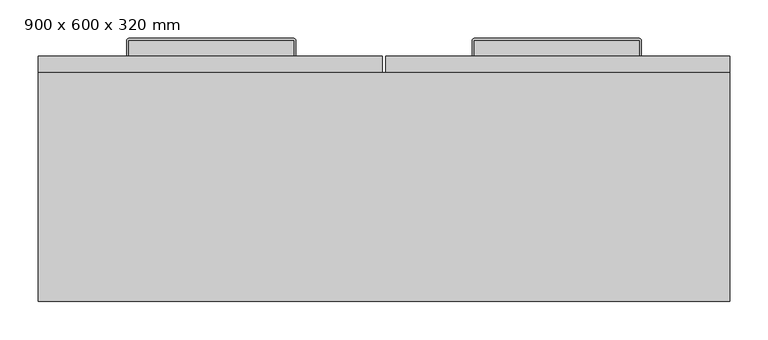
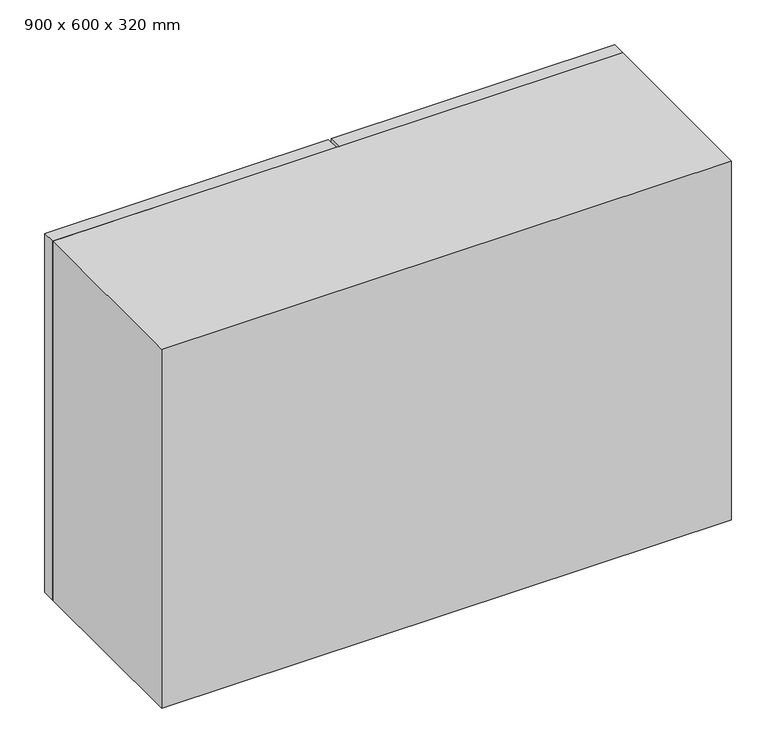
"""IFC4 building model written with IfcOpenShell, lengths in millimetres: furniture geometry, Armario superior - Puerta doble : 900 x 600 x 320 mm."""

from ifc_helpers import new_model, si_unit, point, frame, frame_2d, origin, place, context, project, spatial, polyline, circle_curve, trimmed, segment, composite_curve, outline, extrude, faceted_brep, source, transform, mapped, element, save


def furniture_900_x_600_x_320_mm_dd102760(model_context):
    return source(origin(), model_context, "Body", "SolidModel", [
        extrude(outline(composite_curve([segment(polyline([(-158.0, 410.0), (-158.0, 430.5)]), True, "CONTINUOUS"), segment(trimmed(circle_curve(frame_2d((-157.5, 430.5)), 0.5), [point((-158.0, 430.5))], [point((-157.5, 431.0))], False, "CARTESIAN"), True, "CONTINUOUS"), segment(polyline([(-157.5, 431.0), (57.5, 431.0)]), True, "CONTINUOUS"), segment(trimmed(circle_curve(frame_2d((57.5, 430.5)), 0.5), [point((57.5, 431.0))], [point((58.0, 430.5))], False, "CARTESIAN"), True, "CONTINUOUS"), segment(polyline([(58.0, 430.5), (58.0, 410.0), (-158.0, 410.0)]), True, "CONTINUOUS")], self_intersect=False)), frame((0.0, 0.0, 1449.765389), z_axis=(0.0, 0.0, 1.0), x_axis=(1.0, 0.0, 0.0)), (0.0, 0.0, 1.0), 6.4890959),
        extrude(outline(composite_curve([segment(polyline([(-160.0, 410.0), (-160.0, 430.5)]), True, "CONTINUOUS"), segment(trimmed(circle_curve(frame_2d((-157.5, 430.5)), 2.5), [point((-160.0, 430.5))], [point((-157.5, 433.0))], False, "CARTESIAN"), True, "CONTINUOUS"), segment(polyline([(-157.5, 433.0), (57.5, 433.0)]), True, "CONTINUOUS"), segment(trimmed(circle_curve(frame_2d((57.5, 430.5)), 2.5), [point((57.5, 433.0))], [point((60.0, 430.5))], False, "CARTESIAN"), True, "CONTINUOUS"), segment(polyline([(60.0, 430.5), (60.0, 410.0), (58.0, 410.0), (58.0, 430.5)]), True, "CONTINUOUS"), segment(trimmed(circle_curve(frame_2d((57.5, 430.5)), 0.5), [point((58.0, 430.5))], [point((57.5, 431.0))], True, "CARTESIAN"), True, "CONTINUOUS"), segment(polyline([(57.5, 431.0), (-157.5, 431.0)]), True, "CONTINUOUS"), segment(trimmed(circle_curve(frame_2d((-157.5, 430.5)), 0.5), [point((-157.5, 431.0))], [point((-158.0, 430.5))], True, "CARTESIAN"), True, "CONTINUOUS"), segment(polyline([(-158.0, 430.5), (-158.0, 410.0), (-160.0, 410.0)]), True, "CONTINUOUS")], self_intersect=False)), frame((0.0, 0.0, 1447.0), z_axis=(0.0, 0.0, 1.0), x_axis=(1.0, 0.0, 0.0)), (0.0, 0.0, 1.0), 12.0),
        extrude(outline(composite_curve([segment(polyline([(292.0, 410.0), (292.0, 430.5)]), True, "CONTINUOUS"), segment(trimmed(circle_curve(frame_2d((292.5, 430.5)), 0.5), [point((292.0, 430.5))], [point((292.5, 431.0))], False, "CARTESIAN"), True, "CONTINUOUS"), segment(polyline([(292.5, 431.0), (507.5, 431.0)]), True, "CONTINUOUS"), segment(trimmed(circle_curve(frame_2d((507.5, 430.5)), 0.5), [point((507.5, 431.0))], [point((508.0, 430.5))], False, "CARTESIAN"), True, "CONTINUOUS"), segment(polyline([(508.0, 430.5), (508.0, 410.0), (292.0, 410.0)]), True, "CONTINUOUS")], self_intersect=False)), frame((0.0, 0.0, 1449.765389), z_axis=(0.0, 0.0, 1.0), x_axis=(1.0, 0.0, 0.0)), (0.0, 0.0, 1.0), 6.4890959),
        extrude(outline(composite_curve([segment(polyline([(290.0, 410.0), (290.0, 430.5)]), True, "CONTINUOUS"), segment(trimmed(circle_curve(frame_2d((292.5, 430.5)), 2.5), [point((290.0, 430.5))], [point((292.5, 433.0))], False, "CARTESIAN"), True, "CONTINUOUS"), segment(polyline([(292.5, 433.0), (507.5, 433.0)]), True, "CONTINUOUS"), segment(trimmed(circle_curve(frame_2d((507.5, 430.5)), 2.5), [point((507.5, 433.0))], [point((510.0, 430.5))], False, "CARTESIAN"), True, "CONTINUOUS"), segment(polyline([(510.0, 430.5), (510.0, 410.0), (508.0, 410.0), (508.0, 430.5)]), True, "CONTINUOUS"), segment(trimmed(circle_curve(frame_2d((507.5, 430.5)), 0.5), [point((508.0, 430.5))], [point((507.5, 431.0))], True, "CARTESIAN"), True, "CONTINUOUS"), segment(polyline([(507.5, 431.0), (292.5, 431.0)]), True, "CONTINUOUS"), segment(trimmed(circle_curve(frame_2d((292.5, 430.5)), 0.5), [point((292.5, 431.0))], [point((292.0, 430.5))], True, "CARTESIAN"), True, "CONTINUOUS"), segment(polyline([(292.0, 430.5), (292.0, 410.0), (290.0, 410.0)]), True, "CONTINUOUS")], self_intersect=False)), frame((0.0, 0.0, 1447.0), z_axis=(0.0, 0.0, 1.0), x_axis=(1.0, 0.0, 0.0)), (0.0, 0.0, 1.0), 12.0),
        faceted_brep([(603.0, 388.0, 1422.0), (-253.0, 388.0, 1422.0), (-253.0, 112.0, 1422.0), (603.0, 112.0, 1422.0), (625.0, 388.0, 1400.0), (625.0, 90.0, 1400.0), (-275.0, 90.0, 1400.0), (-275.0, 388.0, 1400.0), (-275.0, 388.0, 2000.0), (625.0, 388.0, 2000.0), (603.0, 388.0, 1978.0), (-253.0, 388.0, 1978.0), (-275.0, 90.0, 2000.0), (625.0, 90.0, 2000.0), (603.0, 112.0, 1978.0), (-253.0, 112.0, 1978.0)], [[[0, 1, 2, 3]], [[4, 5, 6, 7]], [[8, 9, 4, 7], [0, 10, 11, 1]], [[8, 7, 6, 12]], [[12, 6, 5, 13]], [[13, 5, 4, 9]], [[10, 0, 3, 14]], [[14, 3, 2, 15]], [[1, 11, 15, 2]], [[9, 8, 12, 13]], [[11, 10, 14, 15]]]),
        extrude(outline(polyline([(177.0, 410.0), (625.0, 410.0), (625.0, 388.0), (177.0, 388.0), (177.0, 410.0)])), frame((0.0, 0.0, 1400.0), z_axis=(0.0, 0.0, 1.0), x_axis=(1.0, 0.0, 0.0)), (0.0, 0.0, 1.0), 600.0),
        extrude(outline(polyline([(-275.0, 410.0), (173.0, 410.0), (173.0, 388.0), (-275.0, 388.0), (-275.0, 410.0)])), frame((0.0, 0.0, 1400.0), z_axis=(0.0, 0.0, 1.0), x_axis=(1.0, 0.0, 0.0)), (0.0, 0.0, 1.0), 600.0),
    ])


if __name__ == "__main__":
    model = new_model("IFC4")
    model_context = context("Model", 3, world=origin())
    ifc_project = project(units=[si_unit("LENGTHUNIT", "METRE", prefix="MILLI")], contexts=[model_context])
    site = spatial("IfcSite", under=ifc_project)
    building = spatial("IfcBuilding", under=site)
    placement = place(None, origin())
    furniture_900_x_600_x_320_mm_shape = furniture_900_x_600_x_320_mm_dd102760(model_context)
    element("IfcFurniture", 1, ObjectType="Armario superior - Puerta doble : 900 x 600 x 320 mm", at=placement, inside=building, context=model_context, shape_type="MappedRepresentation", body=[
        mapped(furniture_900_x_600_x_320_mm_shape, transform((0.0, 0.0, 0.0), x_axis=(1.0, 0.0, 0.0), y_axis=(0.0, 1.0, 0.0), z_axis=(0.0, 0.0, 1.0))),
    ])
    save(model, "model.ifc")
